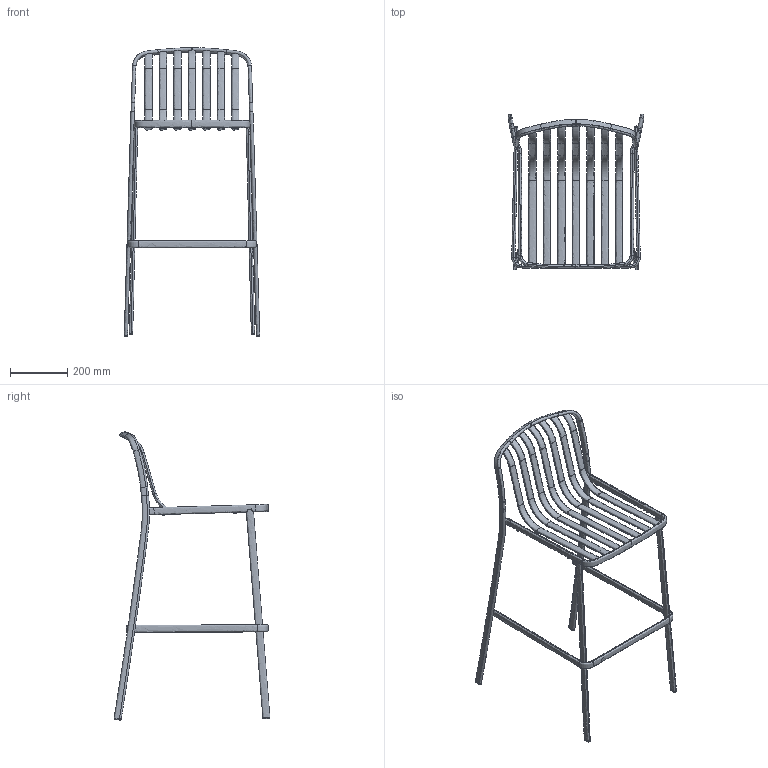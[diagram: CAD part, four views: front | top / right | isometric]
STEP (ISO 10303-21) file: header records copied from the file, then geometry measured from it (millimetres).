
FILE_DESCRIPTION(/* description */ (''),/* implementation_level */ '2;1');
FILE_NAME(/* name */ 'KANBS',/* time_stamp */ '2024-02-05T10:54:41+01:00',/* author */ (''),/* organization */ (''),/* preprocessor_version */ 'ST-DEVELOPER v16.5',/* originating_system */ '',/* authorisation */ '');
FILE_SCHEMA (('AUTOMOTIVE_DESIGN'));
Length unit declared in the file: millimetre
Products named in the file (1): Document
Bounding box: 475.19 x 547.12 x 1012.44 mm (x, y, z)
Volume: 1236858.1 mm3; surface area: 1258683.2 mm2
Topology: 22 solids, 22 shells, 416 faces, 915 edges, 532 vertices
Faces by surface type: bspline 392, plane 24
Entity records: 50558 total; most frequent: CARTESIAN_POINT 45426, ORIENTED_EDGE 1808, EDGE_CURVE 904, VERTEX_POINT 514, EDGE_LOOP 434, ADVANCED_FACE 416, FACE_OUTER_BOUND 416, B_SPLINE_CURVE_WITH_KNOTS 364
